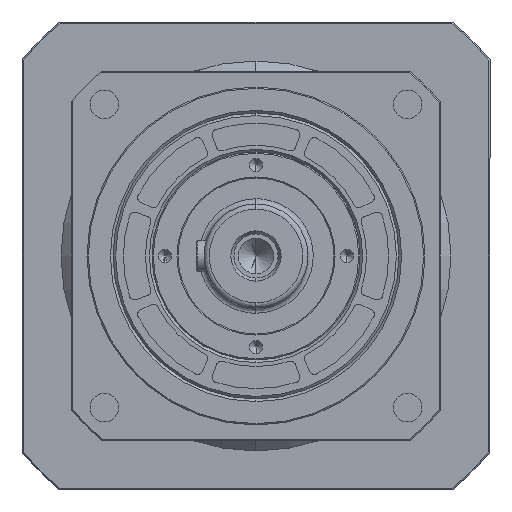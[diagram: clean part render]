
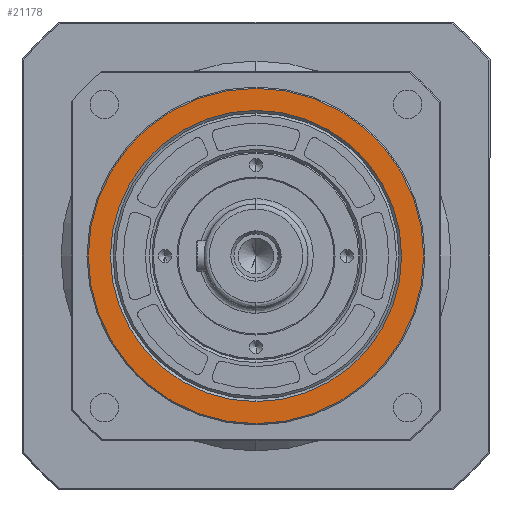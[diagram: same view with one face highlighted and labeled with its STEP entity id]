
A CAD part, left-side view. The second image highlights one B-rep face of the part: STEP entity #21178.
In plain terms, the highlighted planar face has unit normal (-1, 0, 0).
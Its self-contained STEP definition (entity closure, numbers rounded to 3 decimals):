
#870 = CARTESIAN_POINT ( 'NONE',  ( 0., 0., -56. ) ) ;
#2044 = VERTEX_POINT ( 'NONE', #19302 ) ;
#2903 = FACE_BOUND ( 'NONE', #3289, .T. ) ;
#2977 = ORIENTED_EDGE ( 'NONE', *, *, #14073, .F. ) ;
#3289 = EDGE_LOOP ( 'NONE', ( #2977, #19630 ) ) ;
#3290 = AXIS2_PLACEMENT_3D ( 'NONE', #5913, #12837, #16122 ) ;
#5077 = AXIS2_PLACEMENT_3D ( 'NONE', #10790, #20800, #9246 ) ;
#5491 = CARTESIAN_POINT ( 'NONE',  ( 0., 0., 0. ) ) ;
#5710 = VERTEX_POINT ( 'NONE', #17649 ) ;
#5913 = CARTESIAN_POINT ( 'NONE',  ( 0., 0., 0. ) ) ;
#6842 = CARTESIAN_POINT ( 'NONE',  ( 0., 0., 0. ) ) ;
#7293 = EDGE_CURVE ( 'NONE', #5710, #2044, #17770, .T. ) ;
#7316 = ORIENTED_EDGE ( 'NONE', *, *, #20580, .F. ) ;
#7829 = CIRCLE ( 'NONE', #12150, 56. ) ;
#9096 = CIRCLE ( 'NONE', #11668, 56. ) ;
#9246 = DIRECTION ( 'NONE',  ( 0., 0., -1. ) ) ;
#10418 = EDGE_CURVE ( 'NONE', #14355, #19485, #9096, .T. ) ;
#10790 = CARTESIAN_POINT ( 'NONE',  ( 0., 56., 0. ) ) ;
#11615 = DIRECTION ( 'NONE',  ( 0., 0., -1. ) ) ;
#11668 = AXIS2_PLACEMENT_3D ( 'NONE', #14162, #17546, #21050 ) ;
#11886 = DIRECTION ( 'NONE',  ( 0., 0., 1. ) ) ;
#12150 = AXIS2_PLACEMENT_3D ( 'NONE', #5491, #18609, #11886 ) ;
#12837 = DIRECTION ( 'NONE',  ( 1., 0., 0. ) ) ;
#13411 = AXIS2_PLACEMENT_3D ( 'NONE', #6842, #21716, #11615 ) ;
#13982 = PLANE ( 'NONE',  #5077 ) ;
#14073 = EDGE_CURVE ( 'NONE', #19485, #14355, #7829, .T. ) ;
#14162 = CARTESIAN_POINT ( 'NONE',  ( 0., 0., 0. ) ) ;
#14355 = VERTEX_POINT ( 'NONE', #870 ) ;
#15313 = FACE_OUTER_BOUND ( 'NONE', #16058, .T. ) ;
#16058 = EDGE_LOOP ( 'NONE', ( #16821, #7316 ) ) ;
#16122 = DIRECTION ( 'NONE',  ( 0., 0., -1. ) ) ;
#16821 = ORIENTED_EDGE ( 'NONE', *, *, #7293, .F. ) ;
#17546 = DIRECTION ( 'NONE',  ( -1., 0., 0. ) ) ;
#17649 = CARTESIAN_POINT ( 'NONE',  ( 0., 0., -64.5 ) ) ;
#17770 = CIRCLE ( 'NONE', #3290, 64.5 ) ;
#18609 = DIRECTION ( 'NONE',  ( -1., 0., 0. ) ) ;
#19302 = CARTESIAN_POINT ( 'NONE',  ( 0., 0., 64.5 ) ) ;
#19382 = CARTESIAN_POINT ( 'NONE',  ( 0., 0., 56. ) ) ;
#19485 = VERTEX_POINT ( 'NONE', #19382 ) ;
#19630 = ORIENTED_EDGE ( 'NONE', *, *, #10418, .F. ) ;
#20580 = EDGE_CURVE ( 'NONE', #2044, #5710, #21353, .T. ) ;
#20800 = DIRECTION ( 'NONE',  ( 1., 0., 0. ) ) ;
#21050 = DIRECTION ( 'NONE',  ( 0., 0., 1. ) ) ;
#21178 = ADVANCED_FACE ( 'NONE', ( #2903, #15313 ), #13982, .F. ) ;
#21353 = CIRCLE ( 'NONE', #13411, 64.5 ) ;
#21716 = DIRECTION ( 'NONE',  ( 1., 0., 0. ) ) ;
